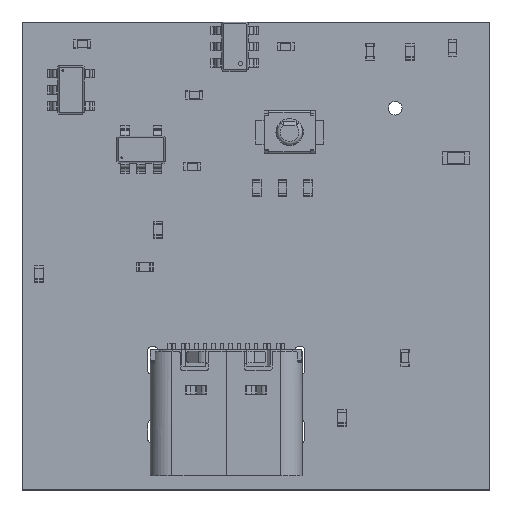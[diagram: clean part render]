
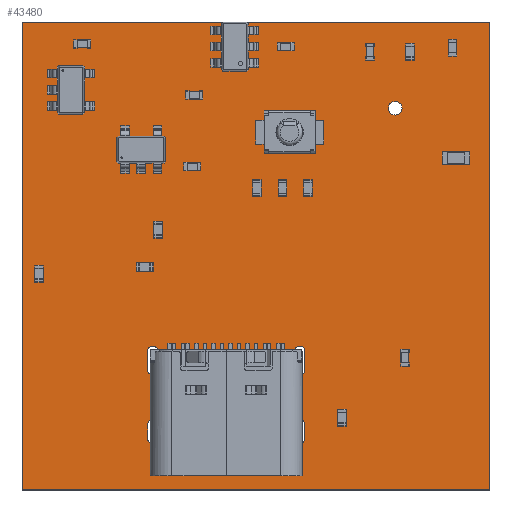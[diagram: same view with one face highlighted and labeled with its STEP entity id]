
A CAD part, top view. The second image highlights one B-rep face of the part: STEP entity #43480.
In plain terms, the highlighted planar face has unit normal (0, 0, 1).
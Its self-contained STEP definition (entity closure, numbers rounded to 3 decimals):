
#43191 = VERTEX_POINT('',#43192);
#43192 = CARTESIAN_POINT('',(27.5,-27.,0.729));
#43198 = EDGE_CURVE('',#43191,#43199,#43201,.T.);
#43199 = VERTEX_POINT('',#43200);
#43200 = CARTESIAN_POINT('',(0.,-27.,0.729));
#43201 = LINE('',#43202,#43203);
#43202 = CARTESIAN_POINT('',(27.5,-27.,0.729));
#43203 = VECTOR('',#43204,1.);
#43204 = DIRECTION('',(-1.,0.,0.));
#43231 = VERTEX_POINT('',#43232);
#43232 = CARTESIAN_POINT('',(27.5,0.5,0.729));
#43238 = EDGE_CURVE('',#43231,#43191,#43239,.T.);
#43239 = LINE('',#43240,#43241);
#43240 = CARTESIAN_POINT('',(27.5,0.5,0.729));
#43241 = VECTOR('',#43242,1.);
#43242 = DIRECTION('',(0.,-1.,0.));
#43260 = EDGE_CURVE('',#43199,#43261,#43263,.T.);
#43261 = VERTEX_POINT('',#43262);
#43262 = CARTESIAN_POINT('',(0.,0.5,0.729));
#43263 = LINE('',#43264,#43265);
#43264 = CARTESIAN_POINT('',(0.,-27.,0.729));
#43265 = VECTOR('',#43266,1.);
#43266 = DIRECTION('',(0.,1.,0.));
#43480 = ADVANCED_FACE('',(#43481,#43492,#43528,#43564,#43575,#43611,
    #43622,#43658),#43669,.T.);
#43481 = FACE_BOUND('',#43482,.T.);
#43482 = EDGE_LOOP('',(#43483,#43484,#43485,#43491));
#43483 = ORIENTED_EDGE('',*,*,#43198,.F.);
#43484 = ORIENTED_EDGE('',*,*,#43238,.F.);
#43485 = ORIENTED_EDGE('',*,*,#43486,.F.);
#43486 = EDGE_CURVE('',#43261,#43231,#43487,.T.);
#43487 = LINE('',#43488,#43489);
#43488 = CARTESIAN_POINT('',(0.,0.5,0.729));
#43489 = VECTOR('',#43490,1.);
#43490 = DIRECTION('',(1.,0.,0.));
#43491 = ORIENTED_EDGE('',*,*,#43260,.F.);
#43492 = FACE_BOUND('',#43493,.T.);
#43493 = EDGE_LOOP('',(#43494,#43505,#43513,#43522));
#43494 = ORIENTED_EDGE('',*,*,#43495,.T.);
#43495 = EDGE_CURVE('',#43496,#43498,#43500,.T.);
#43496 = VERTEX_POINT('',#43497);
#43497 = CARTESIAN_POINT('',(7.98,-23.97,0.729));
#43498 = VERTEX_POINT('',#43499);
#43499 = CARTESIAN_POINT('',(7.38,-23.97,0.729));
#43500 = CIRCLE('',#43501,0.3);
#43501 = AXIS2_PLACEMENT_3D('',#43502,#43503,#43504);
#43502 = CARTESIAN_POINT('',(7.68,-23.97,0.729));
#43503 = DIRECTION('',(-0.,0.,-1.));
#43504 = DIRECTION('',(-1.,0.,0.));
#43505 = ORIENTED_EDGE('',*,*,#43506,.T.);
#43506 = EDGE_CURVE('',#43498,#43507,#43509,.T.);
#43507 = VERTEX_POINT('',#43508);
#43508 = CARTESIAN_POINT('',(7.38,-23.17,0.729));
#43509 = LINE('',#43510,#43511);
#43510 = CARTESIAN_POINT('',(7.38,-11.585,0.729));
#43511 = VECTOR('',#43512,1.);
#43512 = DIRECTION('',(-0.,1.,0.));
#43513 = ORIENTED_EDGE('',*,*,#43514,.T.);
#43514 = EDGE_CURVE('',#43507,#43515,#43517,.T.);
#43515 = VERTEX_POINT('',#43516);
#43516 = CARTESIAN_POINT('',(7.98,-23.17,0.729));
#43517 = CIRCLE('',#43518,0.3);
#43518 = AXIS2_PLACEMENT_3D('',#43519,#43520,#43521);
#43519 = CARTESIAN_POINT('',(7.68,-23.17,0.729));
#43520 = DIRECTION('',(0.,-0.,-1.));
#43521 = DIRECTION('',(1.,0.,-0.));
#43522 = ORIENTED_EDGE('',*,*,#43523,.T.);
#43523 = EDGE_CURVE('',#43515,#43496,#43524,.T.);
#43524 = LINE('',#43525,#43526);
#43525 = CARTESIAN_POINT('',(7.98,-11.985,0.729));
#43526 = VECTOR('',#43527,1.);
#43527 = DIRECTION('',(0.,-1.,0.));
#43528 = FACE_BOUND('',#43529,.T.);
#43529 = EDGE_LOOP('',(#43530,#43541,#43549,#43558));
#43530 = ORIENTED_EDGE('',*,*,#43531,.T.);
#43531 = EDGE_CURVE('',#43532,#43534,#43536,.T.);
#43532 = VERTEX_POINT('',#43533);
#43533 = CARTESIAN_POINT('',(7.98,-19.94,0.729));
#43534 = VERTEX_POINT('',#43535);
#43535 = CARTESIAN_POINT('',(7.38,-19.94,0.729));
#43536 = CIRCLE('',#43537,0.3);
#43537 = AXIS2_PLACEMENT_3D('',#43538,#43539,#43540);
#43538 = CARTESIAN_POINT('',(7.68,-19.94,0.729));
#43539 = DIRECTION('',(-0.,0.,-1.));
#43540 = DIRECTION('',(-1.,0.,0.));
#43541 = ORIENTED_EDGE('',*,*,#43542,.T.);
#43542 = EDGE_CURVE('',#43534,#43543,#43545,.T.);
#43543 = VERTEX_POINT('',#43544);
#43544 = CARTESIAN_POINT('',(7.38,-18.84,0.729));
#43545 = LINE('',#43546,#43547);
#43546 = CARTESIAN_POINT('',(7.38,-9.42,0.729));
#43547 = VECTOR('',#43548,1.);
#43548 = DIRECTION('',(-0.,1.,0.));
#43549 = ORIENTED_EDGE('',*,*,#43550,.T.);
#43550 = EDGE_CURVE('',#43543,#43551,#43553,.T.);
#43551 = VERTEX_POINT('',#43552);
#43552 = CARTESIAN_POINT('',(7.98,-18.84,0.729));
#43553 = CIRCLE('',#43554,0.3);
#43554 = AXIS2_PLACEMENT_3D('',#43555,#43556,#43557);
#43555 = CARTESIAN_POINT('',(7.68,-18.84,0.729));
#43556 = DIRECTION('',(0.,-0.,-1.));
#43557 = DIRECTION('',(1.,0.,0.));
#43558 = ORIENTED_EDGE('',*,*,#43559,.T.);
#43559 = EDGE_CURVE('',#43551,#43532,#43560,.T.);
#43560 = LINE('',#43561,#43562);
#43561 = CARTESIAN_POINT('',(7.98,-9.97,0.729));
#43562 = VECTOR('',#43563,1.);
#43563 = DIRECTION('',(0.,-1.,0.));
#43564 = FACE_BOUND('',#43565,.T.);
#43565 = EDGE_LOOP('',(#43566));
#43566 = ORIENTED_EDGE('',*,*,#43567,.T.);
#43567 = EDGE_CURVE('',#43568,#43568,#43570,.T.);
#43568 = VERTEX_POINT('',#43569);
#43569 = CARTESIAN_POINT('',(9.11,-20.215,0.729));
#43570 = CIRCLE('',#43571,0.325);
#43571 = AXIS2_PLACEMENT_3D('',#43572,#43573,#43574);
#43572 = CARTESIAN_POINT('',(9.11,-19.89,0.729));
#43573 = DIRECTION('',(-0.,0.,-1.));
#43574 = DIRECTION('',(-0.,-1.,0.));
#43575 = FACE_BOUND('',#43576,.T.);
#43576 = EDGE_LOOP('',(#43577,#43588,#43596,#43605));
#43577 = ORIENTED_EDGE('',*,*,#43578,.T.);
#43578 = EDGE_CURVE('',#43579,#43581,#43583,.T.);
#43579 = VERTEX_POINT('',#43580);
#43580 = CARTESIAN_POINT('',(16.62,-23.97,0.729));
#43581 = VERTEX_POINT('',#43582);
#43582 = CARTESIAN_POINT('',(16.02,-23.97,0.729));
#43583 = CIRCLE('',#43584,0.3);
#43584 = AXIS2_PLACEMENT_3D('',#43585,#43586,#43587);
#43585 = CARTESIAN_POINT('',(16.32,-23.97,0.729));
#43586 = DIRECTION('',(-0.,0.,-1.));
#43587 = DIRECTION('',(-1.,0.,0.));
#43588 = ORIENTED_EDGE('',*,*,#43589,.T.);
#43589 = EDGE_CURVE('',#43581,#43590,#43592,.T.);
#43590 = VERTEX_POINT('',#43591);
#43591 = CARTESIAN_POINT('',(16.02,-23.17,0.729));
#43592 = LINE('',#43593,#43594);
#43593 = CARTESIAN_POINT('',(16.02,-11.585,0.729));
#43594 = VECTOR('',#43595,1.);
#43595 = DIRECTION('',(-0.,1.,0.));
#43596 = ORIENTED_EDGE('',*,*,#43597,.T.);
#43597 = EDGE_CURVE('',#43590,#43598,#43600,.T.);
#43598 = VERTEX_POINT('',#43599);
#43599 = CARTESIAN_POINT('',(16.62,-23.17,0.729));
#43600 = CIRCLE('',#43601,0.3);
#43601 = AXIS2_PLACEMENT_3D('',#43602,#43603,#43604);
#43602 = CARTESIAN_POINT('',(16.32,-23.17,0.729));
#43603 = DIRECTION('',(0.,-0.,-1.));
#43604 = DIRECTION('',(1.,0.,-0.));
#43605 = ORIENTED_EDGE('',*,*,#43606,.T.);
#43606 = EDGE_CURVE('',#43598,#43579,#43607,.T.);
#43607 = LINE('',#43608,#43609);
#43608 = CARTESIAN_POINT('',(16.62,-11.985,0.729));
#43609 = VECTOR('',#43610,1.);
#43610 = DIRECTION('',(0.,-1.,0.));
#43611 = FACE_BOUND('',#43612,.T.);
#43612 = EDGE_LOOP('',(#43613));
#43613 = ORIENTED_EDGE('',*,*,#43614,.T.);
#43614 = EDGE_CURVE('',#43615,#43615,#43617,.T.);
#43615 = VERTEX_POINT('',#43616);
#43616 = CARTESIAN_POINT('',(14.89,-20.215,0.729));
#43617 = CIRCLE('',#43618,0.325);
#43618 = AXIS2_PLACEMENT_3D('',#43619,#43620,#43621);
#43619 = CARTESIAN_POINT('',(14.89,-19.89,0.729));
#43620 = DIRECTION('',(-0.,0.,-1.));
#43621 = DIRECTION('',(-0.,-1.,0.));
#43622 = FACE_BOUND('',#43623,.T.);
#43623 = EDGE_LOOP('',(#43624,#43635,#43643,#43652));
#43624 = ORIENTED_EDGE('',*,*,#43625,.T.);
#43625 = EDGE_CURVE('',#43626,#43628,#43630,.T.);
#43626 = VERTEX_POINT('',#43627);
#43627 = CARTESIAN_POINT('',(16.62,-19.94,0.729));
#43628 = VERTEX_POINT('',#43629);
#43629 = CARTESIAN_POINT('',(16.02,-19.94,0.729));
#43630 = CIRCLE('',#43631,0.3);
#43631 = AXIS2_PLACEMENT_3D('',#43632,#43633,#43634);
#43632 = CARTESIAN_POINT('',(16.32,-19.94,0.729));
#43633 = DIRECTION('',(-0.,0.,-1.));
#43634 = DIRECTION('',(-1.,0.,0.));
#43635 = ORIENTED_EDGE('',*,*,#43636,.T.);
#43636 = EDGE_CURVE('',#43628,#43637,#43639,.T.);
#43637 = VERTEX_POINT('',#43638);
#43638 = CARTESIAN_POINT('',(16.02,-18.84,0.729));
#43639 = LINE('',#43640,#43641);
#43640 = CARTESIAN_POINT('',(16.02,-9.42,0.729));
#43641 = VECTOR('',#43642,1.);
#43642 = DIRECTION('',(-0.,1.,0.));
#43643 = ORIENTED_EDGE('',*,*,#43644,.T.);
#43644 = EDGE_CURVE('',#43637,#43645,#43647,.T.);
#43645 = VERTEX_POINT('',#43646);
#43646 = CARTESIAN_POINT('',(16.62,-18.84,0.729));
#43647 = CIRCLE('',#43648,0.3);
#43648 = AXIS2_PLACEMENT_3D('',#43649,#43650,#43651);
#43649 = CARTESIAN_POINT('',(16.32,-18.84,0.729));
#43650 = DIRECTION('',(0.,-0.,-1.));
#43651 = DIRECTION('',(1.,0.,0.));
#43652 = ORIENTED_EDGE('',*,*,#43653,.T.);
#43653 = EDGE_CURVE('',#43645,#43626,#43654,.T.);
#43654 = LINE('',#43655,#43656);
#43655 = CARTESIAN_POINT('',(16.62,-9.97,0.729));
#43656 = VECTOR('',#43657,1.);
#43657 = DIRECTION('',(0.,-1.,0.));
#43658 = FACE_BOUND('',#43659,.T.);
#43659 = EDGE_LOOP('',(#43660));
#43660 = ORIENTED_EDGE('',*,*,#43661,.T.);
#43661 = EDGE_CURVE('',#43662,#43662,#43664,.T.);
#43662 = VERTEX_POINT('',#43663);
#43663 = CARTESIAN_POINT('',(21.93,-4.965,0.729));
#43664 = CIRCLE('',#43665,0.4);
#43665 = AXIS2_PLACEMENT_3D('',#43666,#43667,#43668);
#43666 = CARTESIAN_POINT('',(21.93,-4.565,0.729));
#43667 = DIRECTION('',(-0.,0.,-1.));
#43668 = DIRECTION('',(-0.,-1.,0.));
#43669 = PLANE('',#43670);
#43670 = AXIS2_PLACEMENT_3D('',#43671,#43672,#43673);
#43671 = CARTESIAN_POINT('',(0.,0.,0.729));
#43672 = DIRECTION('',(0.,0.,1.));
#43673 = DIRECTION('',(1.,0.,-0.));
